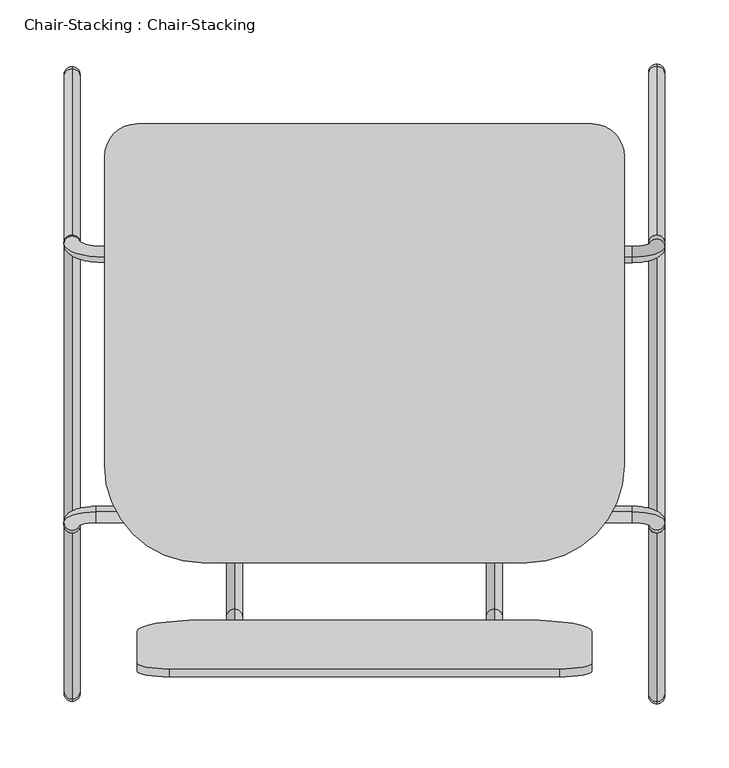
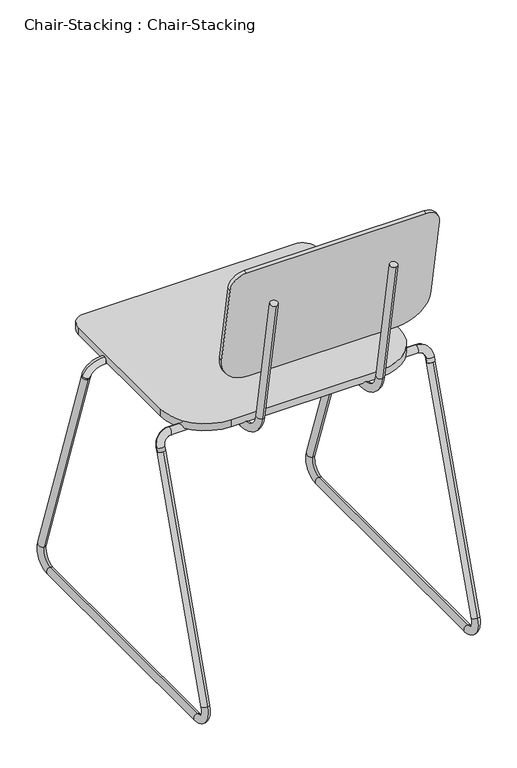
"""IFC4 building model written with IfcOpenShell, lengths in millimetres: furniture geometry, Chair-Stacking : Chair-Stacking."""

from ifc_helpers import new_model, si_unit, point, frame, frame_2d, origin, place, context, project, spatial, polyline, circle_curve, ellipse_curve, trimmed, segment, composite_curve, outline, extrude, source, transform, mapped, element, save
from ifc_brep_helpers import plane_surface, cylinder_surface, revolved_surface, advanced_brep


def chair_stacking_chair_stacking_76f41a28(model_context):
    return source(origin(), model_context, "Body", "SolidModel", [
        advanced_brep(
        [(-280.6491803, 213.2656675, 431.8), (-280.6491803, 213.2656675, 444.5), (-280.6491803, -23.0277124, 431.8), (-280.6491803, -23.0277124, 444.5), (-280.6491803, -66.802417, 481.2313385), (-280.6491803, -79.3094755, 479.0260066), (-280.6491803, -119.2282049, 705.4163709), (-280.6491803, -106.7211464, 707.6217027)],
        [
            (0, 1, circle_curve(frame((-280.6491803, 213.2656675, 438.15), z_axis=(0.0, 1.0, 0.0), x_axis=(0.0, 0.0, 1.0)), 6.35)),
            (1, 0, circle_curve(frame((-280.6491803, 213.2656675, 438.15), z_axis=(0.0, 1.0, 0.0), x_axis=(0.0, 0.0, 1.0)), 6.35)),
            (0, 2),
            (2, 3, circle_curve(frame((-280.6491803, -23.0277124, 438.15), z_axis=(0.0, 1.0, 0.0), x_axis=(0.0, 0.0, 1.0)), 6.35)),
            (3, 1),
            (3, 2, circle_curve(frame((-280.6491803, -23.0277124, 438.15), z_axis=(0.0, 1.0, 0.0), x_axis=(0.0, 0.0, 1.0)), 6.35)),
            (4, 3, circle_curve(frame((-280.6491803, -23.0277124, 488.95), z_axis=(1.0, 0.0, 0.0), x_axis=(0.0, 0.0, -1.0)), 44.45)),
            (2, 5, circle_curve(frame((-280.6491803, -23.0277124, 488.95), z_axis=(-1.0, 0.0, 0.0), x_axis=(0.0, 0.0, -1.0)), 57.15)),
            (5, 4, circle_curve(frame((-280.6491803, -73.0559463, 480.1286726), z_axis=(0.0, 0.17364817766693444, -0.9848077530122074), x_axis=(0.0, 0.9848077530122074, 0.17364817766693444)), 6.35)),
            (4, 5, circle_curve(frame((-280.6491803, -73.0559463, 480.1286726), z_axis=(0.0, 0.17364817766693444, -0.9848077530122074), x_axis=(0.0, 0.9848077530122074, 0.17364817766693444)), 6.35)),
            (6, 7, circle_curve(frame((-280.6491803, -112.9746757, 706.5190368), z_axis=(0.0, -0.1736481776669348, 0.9848077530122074), x_axis=(0.0, 0.9848077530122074, 0.1736481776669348)), 6.35)),
            (7, 6, circle_curve(frame((-280.6491803, -112.9746757, 706.5190368), z_axis=(0.0, -0.1736481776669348, 0.9848077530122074), x_axis=(0.0, 0.9848077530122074, 0.1736481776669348)), 6.35)),
            (5, 6),
            (7, 4),
        ],
        [
            plane_surface(frame((-286.9991803, 213.2656675, 438.15), z_axis=(0.0, 1.0, 0.0), x_axis=(0.0, 0.0, -1.0))),
            cylinder_surface(frame((-280.6491803, 213.2656675, 438.15), z_axis=(0.0, 1.0, 0.0), x_axis=(0.0, 0.0, 1.0)), 6.35),
            revolved_surface(trimmed(ellipse_curve(frame((-280.6491803, -23.0277124, 438.15), z_axis=(0.0, 1.0, 0.0), x_axis=(0.0, 0.0, 1.0)), 6.35, 6.35), [point((-280.6491803, -23.0277124, 431.8))], [point((-280.6491803, -23.0277124, 444.5))], True, "CARTESIAN"), (-280.6491803, -23.0277124, 488.95), (-1.0, 0.0, 0.0)),
            revolved_surface(trimmed(ellipse_curve(frame((-280.6491803, -23.0277124, 438.15), z_axis=(0.0, 1.0, 0.0), x_axis=(0.0, 0.0, 1.0)), 6.35, 6.35), [point((-280.6491803, -23.0277124, 444.5))], [point((-280.6491803, -23.0277124, 431.8))], True, "CARTESIAN"), (-280.6491803, -23.0277124, 488.95), (-1.0, 0.0, 0.0)),
            plane_surface(frame((-280.6491803, -119.2282049, 705.4163709), z_axis=(0.0, -0.17364817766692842, 0.9848077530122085), x_axis=(1.0, 0.0, 0.0))),
            cylinder_surface(frame((-280.6491803, -73.0559463, 480.1286726), z_axis=(0.0, 0.1736481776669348, -0.9848077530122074), x_axis=(0.0, 0.9848077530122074, 0.1736481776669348)), 6.35),
        ],
        [
            (0, [[1, 2]]),
            (1, [[-1, 3, 4, 5]]),
            (1, [[-2, -5, 6, -3]]),
            (2, [[7, -4, 8, 9]]),
            (3, [[-8, -6, -7, 10]]),
            (4, [[11, 12]]),
            (5, [[-9, 13, -12, 14]]),
            (5, [[-10, -14, -11, -13]]),
        ],
    ),
        advanced_brep(
        [(-77.4491803, 213.2656675, 431.8), (-77.4491803, 213.2656675, 444.5), (-77.4491803, -23.0277124, 431.8), (-77.4491803, -23.0277124, 444.5), (-77.4491803, -66.802417, 481.2313385), (-77.4491803, -79.3094755, 479.0260066), (-77.4491803, -118.9339087, 703.7473341), (-77.4491803, -106.4268502, 705.9526659)],
        [
            (0, 1, circle_curve(frame((-77.4491803, 213.2656675, 438.15), z_axis=(0.0, 1.0, 0.0), x_axis=(0.0, 0.0, 1.0)), 6.35)),
            (1, 0, circle_curve(frame((-77.4491803, 213.2656675, 438.15), z_axis=(0.0, 1.0, 0.0), x_axis=(0.0, 0.0, 1.0)), 6.35)),
            (0, 2),
            (2, 3, circle_curve(frame((-77.4491803, -23.0277124, 438.15), z_axis=(0.0, 1.0, 0.0), x_axis=(0.0, 0.0, 1.0)), 6.35)),
            (3, 1),
            (3, 2, circle_curve(frame((-77.4491803, -23.0277124, 438.15), z_axis=(0.0, 1.0, 0.0), x_axis=(0.0, 0.0, 1.0)), 6.35)),
            (4, 3, circle_curve(frame((-77.4491803, -23.0277124, 488.95), z_axis=(1.0, 0.0, 0.0), x_axis=(0.0, 0.0, -1.0)), 44.45)),
            (2, 5, circle_curve(frame((-77.4491803, -23.0277124, 488.95), z_axis=(-1.0, 0.0, 0.0), x_axis=(0.0, 0.0, -1.0)), 57.15)),
            (5, 4, circle_curve(frame((-77.4491803, -73.0559463, 480.1286726), z_axis=(0.0, 0.1736481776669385, -0.9848077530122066), x_axis=(0.0, 0.9848077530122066, 0.1736481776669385)), 6.35)),
            (4, 5, circle_curve(frame((-77.4491803, -73.0559463, 480.1286726), z_axis=(0.0, 0.1736481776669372, -0.9848077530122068), x_axis=(0.0, 0.9848077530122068, 0.1736481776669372)), 6.35)),
            (6, 7, circle_curve(frame((-77.4491803, -112.6803794, 704.85), z_axis=(0.0, -0.17364817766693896, 0.9848077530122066), x_axis=(0.0, 0.9848077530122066, 0.17364817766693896)), 6.35)),
            (7, 6, circle_curve(frame((-77.4491803, -112.6803794, 704.85), z_axis=(0.0, -0.17364817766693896, 0.9848077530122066), x_axis=(0.0, 0.9848077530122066, 0.17364817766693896)), 6.35)),
            (5, 6),
            (7, 4),
        ],
        [
            plane_surface(frame((-83.7991803, 213.2656675, 438.15), z_axis=(0.0, 1.0, 0.0), x_axis=(0.0, 0.0, -1.0))),
            cylinder_surface(frame((-77.4491803, 213.2656675, 438.15), z_axis=(0.0, 1.0, 0.0), x_axis=(0.0, 0.0, 1.0)), 6.35),
            revolved_surface(trimmed(ellipse_curve(frame((-77.4491803, -23.0277124, 438.15), z_axis=(0.0, 1.0, 0.0), x_axis=(0.0, 0.0, 1.0)), 6.35, 6.35), [point((-77.4491803, -23.0277124, 431.8))], [point((-77.4491803, -23.0277124, 444.5))], True, "CARTESIAN"), (-77.4491803, -23.0277124, 488.95), (-1.0, 0.0, 0.0)),
            revolved_surface(trimmed(ellipse_curve(frame((-77.4491803, -23.0277124, 438.15), z_axis=(0.0, 1.0, 0.0), x_axis=(0.0, 0.0, 1.0)), 6.35, 6.35), [point((-77.4491803, -23.0277124, 444.5))], [point((-77.4491803, -23.0277124, 431.8))], True, "CARTESIAN"), (-77.4491803, -23.0277124, 488.95), (-1.0, 0.0, 0.0)),
            plane_surface(frame((-77.4491803, -118.9339087, 703.7473341), z_axis=(0.0, -0.17364817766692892, 0.9848077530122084), x_axis=(1.0, 0.0, 0.0))),
            cylinder_surface(frame((-77.4491803, -73.0559463, 480.1286726), z_axis=(0.0, 0.17364817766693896, -0.9848077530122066), x_axis=(0.0, 0.9848077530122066, 0.17364817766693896)), 6.35),
        ],
        [
            (0, [[1, 2]]),
            (1, [[-1, 3, 4, 5]]),
            (1, [[-2, -5, 6, -3]]),
            (2, [[7, -4, 8, 9]]),
            (3, [[-8, -6, -7, 10]]),
            (4, [[11, 12]]),
            (5, [[-9, 13, -12, 14]]),
            (5, [[-10, -14, -11, -13]]),
        ],
    ),
        extrude(outline(composite_curve([segment(trimmed(circle_curve(frame_2d((-1.2491803, 286.7314636)), 25.4), [point((-1.2491803, 312.1314636))], [point((24.1508197, 286.7314636))], False, "CARTESIAN"), True, "CONTINUOUS"), segment(polyline([(24.1508197, 286.7314636), (24.1508197, 45.4314636)]), True, "CONTINUOUS"), segment(trimmed(circle_curve(frame_2d((-52.0491803, 45.4314636)), 76.2), [point((24.1508197, 45.4314636))], [point((-52.0491803, -30.7685364))], False, "CARTESIAN"), True, "CONTINUOUS"), segment(polyline([(-52.0491803, -30.7685364), (-306.0491803, -30.7685364)]), True, "CONTINUOUS"), segment(trimmed(circle_curve(frame_2d((-306.0491803, 45.4314636)), 76.2), [point((-306.0491803, -30.7685364))], [point((-382.2491803, 45.4314636))], False, "CARTESIAN"), True, "CONTINUOUS"), segment(polyline([(-382.2491803, 45.4314636), (-382.2491803, 286.7314636)]), True, "CONTINUOUS"), segment(trimmed(circle_curve(frame_2d((-356.8491803, 286.7314636)), 25.4), [point((-382.2491803, 286.7314636))], [point((-356.8491803, 312.1314636))], False, "CARTESIAN"), True, "CONTINUOUS"), segment(polyline([(-356.8491803, 312.1314636), (-1.2491803, 312.1314636)]), True, "CONTINUOUS")], self_intersect=False)), frame((0.0, 0.0, 444.5), z_axis=(0.0, 0.0, 1.0), x_axis=(1.0, 0.0, 0.0)), (0.0, 0.0, 1.0), 12.7),
        extrude(outline(composite_curve([segment(polyline([(-304.8, 0.0), (0.0, 0.0)]), True, "CONTINUOUS"), segment(trimmed(circle_curve(frame_2d((0.0, -25.4)), 25.4), [point((0.0, 0.0))], [point((25.4, -25.4))], False, "CARTESIAN"), True, "CONTINUOUS"), segment(polyline([(25.4, -25.4), (25.4, -168.3013626)]), True, "CONTINUOUS"), segment(trimmed(circle_curve(frame_2d((-25.4, -168.3013626)), 50.8), [point((25.4, -168.3013626))], [point((-25.4, -219.1013626))], False, "CARTESIAN"), True, "CONTINUOUS"), segment(polyline([(-25.4, -219.1013626), (-279.4, -219.1013626)]), True, "CONTINUOUS"), segment(trimmed(circle_curve(frame_2d((-279.4, -168.3013626)), 50.8), [point((-279.4, -219.1013626))], [point((-330.2, -168.3013626))], False, "CARTESIAN"), True, "CONTINUOUS"), segment(polyline([(-330.2, -168.3013626), (-330.2, -25.4)]), True, "CONTINUOUS"), segment(trimmed(circle_curve(frame_2d((-304.8, -25.4)), 25.4), [point((-330.2, -25.4))], [point((-304.8, 0.0))], False, "CARTESIAN"), True, "CONTINUOUS")], self_intersect=False)), frame((-331.4491803, -119.9531376, 782.6640535), z_axis=(0.0, 0.9848077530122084, 0.17364817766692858), x_axis=(-1.0, 0.0, 0.0)), (0.0, 0.0, 1.0), 6.35),
        advanced_brep(
        [(55.9008197, 219.2327758, 419.1211728), (43.2008197, 219.2327758, 419.1211728), (55.9008197, 216.3017292, 427.6700586), (43.2008197, 216.3017292, 427.6700586), (30.5008197, 212.1828103, 439.6835721), (30.5008197, 208.0638914, 451.6970857), (-382.2491803, 208.0638914, 451.6970857), (-382.2491803, 212.1828103, 439.6835721), (-401.2991803, 218.3611887, 421.6633019), (-413.9991803, 218.3611887, 421.6633019), (-413.9991803, 219.2424531, 419.0929473), (-401.2991803, 219.2424531, 419.0929473)],
        [
            (0, 1, circle_curve(frame((49.5508197, 219.2327758, 419.1211728), z_axis=(0.0, 0.32432432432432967, -0.9459459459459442), x_axis=(-1.0, 0.0, 0.0)), 6.35)),
            (1, 0, circle_curve(frame((49.5508197, 219.2327758, 419.1211728), z_axis=(0.0, 0.32432432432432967, -0.9459459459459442), x_axis=(-1.0, 0.0, 0.0)), 6.35)),
            (0, 2),
            (2, 3, circle_curve(frame((49.5508197, 216.3017292, 427.6700586), z_axis=(0.0, 0.32432432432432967, -0.9459459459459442), x_axis=(-1.0, 0.0, 0.0)), 6.35)),
            (3, 1),
            (3, 2, circle_curve(frame((49.5508197, 216.3017292, 427.6700586), z_axis=(0.0, 0.32432432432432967, -0.9459459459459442), x_axis=(-1.0, 0.0, 0.0)), 6.35)),
            (4, 3, circle_curve(frame((30.5008197, 216.3017292, 427.6700586), z_axis=(0.0, 0.9459459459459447, 0.3243243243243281), x_axis=(1.0, 0.0, 0.0)), 12.7)),
            (2, 5, circle_curve(frame((30.5008197, 216.3017292, 427.6700586), z_axis=(0.0, -0.9459459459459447, -0.3243243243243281), x_axis=(1.0, 0.0, 0.0)), 25.4)),
            (5, 4, circle_curve(frame((30.5008197, 210.1233509, 445.6903289), z_axis=(1.0, 0.0, 0.0), x_axis=(0.0, 0.32432432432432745, -0.9459459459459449)), 6.35)),
            (4, 5, circle_curve(frame((30.5008197, 210.1233509, 445.6903289), z_axis=(1.0, 0.0, 0.0), x_axis=(0.0, 0.32432432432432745, -0.9459459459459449)), 6.35)),
            (5, 6),
            (6, 7, circle_curve(frame((-382.2491803, 210.1233509, 445.6903289), z_axis=(1.0, 0.0, 0.0), x_axis=(0.0, 0.32432432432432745, -0.9459459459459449)), 6.35)),
            (7, 4),
            (7, 6, circle_curve(frame((-382.2491803, 210.1233509, 445.6903289), z_axis=(1.0, 0.0, 0.0), x_axis=(0.0, 0.32432432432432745, -0.9459459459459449)), 6.35)),
            (8, 7, circle_curve(frame((-382.2491803, 218.3611887, 421.6633019), z_axis=(0.0, 0.9459459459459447, 0.3243243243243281), x_axis=(0.0, -0.3243243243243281, 0.9459459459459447)), 19.05)),
            (6, 9, circle_curve(frame((-382.2491803, 218.3611887, 421.6633019), z_axis=(0.0, -0.9459459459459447, -0.3243243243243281), x_axis=(0.0, -0.3243243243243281, 0.9459459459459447)), 31.75)),
            (9, 8, circle_curve(frame((-407.6491803, 218.3611887, 421.6633019), z_axis=(0.0, -0.324324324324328, 0.9459459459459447), x_axis=(1.0000000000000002, 0.0, 0.0)), 6.35)),
            (8, 9, circle_curve(frame((-407.6491803, 218.3611887, 421.6633019), z_axis=(0.0, -0.324324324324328, 0.9459459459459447), x_axis=(1.0000000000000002, 0.0, 0.0)), 6.35)),
            (10, 11, circle_curve(frame((-407.6491803, 219.2424531, 419.0929473), z_axis=(0.0, 0.32432432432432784, -0.9459459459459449), x_axis=(1.0, 0.0, 0.0)), 6.35)),
            (11, 10, circle_curve(frame((-407.6491803, 219.2424531, 419.0929473), z_axis=(0.0, 0.32432432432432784, -0.9459459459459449), x_axis=(1.0, 0.0, 0.0)), 6.35)),
            (9, 10),
            (11, 8),
        ],
        [
            plane_surface(frame((49.5508197, 213.226019, 417.0617133), z_axis=(0.0, 0.32432432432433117, -0.9459459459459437), x_axis=(1.0, 0.0, 0.0))),
            cylinder_surface(frame((49.5508197, 219.2327758, 419.1211728), z_axis=(0.0, 0.32432432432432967, -0.9459459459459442), x_axis=(-1.0, 0.0, 0.0)), 6.35),
            revolved_surface(trimmed(ellipse_curve(frame((49.5508197, 216.3017292, 427.6700586), z_axis=(0.0, 0.32432432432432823, -0.9459459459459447), x_axis=(-1.0, 0.0, 0.0)), 6.35, 6.35), [point((55.9008197, 216.3017292, 427.6700586))], [point((43.2008197, 216.3017292, 427.6700586))], True, "CARTESIAN"), (30.5008197, 216.3017292, 427.6700586), (0.0, -0.9459459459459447, -0.3243243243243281)),
            revolved_surface(trimmed(ellipse_curve(frame((49.5508197, 216.3017292, 427.6700586), z_axis=(0.0, 0.32432432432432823, -0.9459459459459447), x_axis=(-1.0, 0.0, 0.0)), 6.35, 6.35), [point((43.2008197, 216.3017292, 427.6700586))], [point((55.9008197, 216.3017292, 427.6700586))], True, "CARTESIAN"), (30.5008197, 216.3017292, 427.6700586), (0.0, -0.9459459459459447, -0.3243243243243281)),
            cylinder_surface(frame((30.5008197, 210.1233509, 445.6903289), z_axis=(1.0, 0.0, 0.0), x_axis=(0.0, 0.32432432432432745, -0.9459459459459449)), 6.35),
            revolved_surface(trimmed(ellipse_curve(frame((-382.2491803, 210.1233509, 445.6903289), z_axis=(1.0000000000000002, 0.0, 0.0), x_axis=(0.0, 0.3243243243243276, -0.9459459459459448)), 6.35, 6.35), [point((-382.2491803, 208.0638914, 451.6970857))], [point((-382.2491803, 212.1828103, 439.6835721))], True, "CARTESIAN"), (-382.2491803, 218.3611887, 421.6633019), (0.0, -0.9459459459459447, -0.3243243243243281)),
            revolved_surface(trimmed(ellipse_curve(frame((-382.2491803, 210.1233509, 445.6903289), z_axis=(1.0000000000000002, 0.0, 0.0), x_axis=(0.0, 0.3243243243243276, -0.9459459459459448)), 6.35, 6.35), [point((-382.2491803, 212.1828103, 439.6835721))], [point((-382.2491803, 208.0638914, 451.6970857))], True, "CARTESIAN"), (-382.2491803, 218.3611887, 421.6633019), (0.0, -0.9459459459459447, -0.3243243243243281)),
            plane_surface(frame((-407.6491803, 225.2492099, 421.1524068), z_axis=(0.0, 0.3243243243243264, -0.9459459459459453), x_axis=(1.0, 0.0, 0.0))),
            cylinder_surface(frame((-407.6491803, 218.3611887, 421.6633019), z_axis=(0.0, -0.3243243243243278, 0.9459459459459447), x_axis=(1.0, 0.0, 0.0)), 6.35),
        ],
        [
            (0, [[1, 2]]),
            (1, [[-1, 3, 4, 5]]),
            (1, [[-2, -5, 6, -3]]),
            (2, [[7, -4, 8, 9]]),
            (3, [[-8, -6, -7, 10]]),
            (4, [[-9, 11, 12, 13]]),
            (4, [[-10, -13, 14, -11]]),
            (5, [[15, -12, 16, 17]]),
            (6, [[-16, -14, -15, 18]]),
            (7, [[19, 20]]),
            (8, [[-17, 21, -20, 22]]),
            (8, [[-18, -22, -19, -21]]),
        ],
    ),
        advanced_brep(
        [(55.9008197, -1.3812406, 419.0879461), (43.2008197, -1.3812406, 419.0879461), (55.9008197, 0.7944914, 425.4338312), (43.2008197, 0.7944914, 425.4338312), (30.5008197, 4.9134104, 437.4473447), (30.5008197, 9.0323293, 449.4608582), (-388.5991803, 9.0323293, 449.4608582), (-388.5991803, 4.9134104, 437.4473447), (-401.2991803, 0.7944914, 425.4338312), (-413.9991803, 0.7944914, 425.4338312), (-413.9991803, -1.3997864, 419.0338542), (-401.2991803, -1.3997864, 419.0338542)],
        [
            (0, 1, circle_curve(frame((49.5508197, -1.3812406, 419.0879461), z_axis=(0.0, -0.32432432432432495, -0.9459459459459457), x_axis=(-1.0, 0.0, 0.0)), 6.35)),
            (1, 0, circle_curve(frame((49.5508197, -1.3812406, 419.0879461), z_axis=(0.0, -0.32432432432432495, -0.9459459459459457), x_axis=(-1.0, 0.0, 0.0)), 6.35)),
            (0, 2),
            (2, 3, circle_curve(frame((49.5508197, 0.7944914, 425.4338312), z_axis=(0.0, -0.32432432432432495, -0.9459459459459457), x_axis=(-1.0, 0.0, 0.0)), 6.35)),
            (3, 1),
            (3, 2, circle_curve(frame((49.5508197, 0.7944914, 425.4338312), z_axis=(0.0, -0.32432432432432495, -0.9459459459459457), x_axis=(-1.0, 0.0, 0.0)), 6.35)),
            (4, 3, circle_curve(frame((30.5008197, 0.7944914, 425.4338312), z_axis=(0.0, 0.9459459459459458, -0.3243243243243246), x_axis=(1.0, 0.0, 0.0)), 12.7)),
            (2, 5, circle_curve(frame((30.5008197, 0.7944914, 425.4338312), z_axis=(0.0, -0.9459459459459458, 0.3243243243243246), x_axis=(1.0, 0.0, 0.0)), 25.4)),
            (5, 4, circle_curve(frame((30.5008197, 6.9728698, 443.4541014), z_axis=(1.0, 0.0, 0.0), x_axis=(0.0, -0.3243243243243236, -0.9459459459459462)), 6.35)),
            (4, 5, circle_curve(frame((30.5008197, 6.9728698, 443.4541014), z_axis=(1.0, 0.0, 0.0), x_axis=(0.0, -0.3243243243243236, -0.9459459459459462)), 6.35)),
            (5, 6),
            (6, 7, circle_curve(frame((-388.5991803, 6.9728698, 443.4541014), z_axis=(1.0, 0.0, 0.0), x_axis=(0.0, -0.3243243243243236, -0.9459459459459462)), 6.35)),
            (7, 4),
            (7, 6, circle_curve(frame((-388.5991803, 6.9728698, 443.4541014), z_axis=(1.0, 0.0, 0.0), x_axis=(0.0, -0.3243243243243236, -0.9459459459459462)), 6.35)),
            (8, 7, circle_curve(frame((-388.5991803, 0.7944914, 425.4338312), z_axis=(0.0, 0.9459459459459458, -0.3243243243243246), x_axis=(0.0, 0.3243243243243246, 0.9459459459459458)), 12.7)),
            (6, 9, circle_curve(frame((-388.5991803, 0.7944914, 425.4338312), z_axis=(0.0, -0.9459459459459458, 0.3243243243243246), x_axis=(0.0, 0.3243243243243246, 0.9459459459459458)), 25.4)),
            (9, 8, circle_curve(frame((-407.6491803, 0.7944914, 425.4338312), z_axis=(0.0, 0.3243243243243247, 0.9459459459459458), x_axis=(1.0, 0.0, 0.0)), 6.35)),
            (8, 9, circle_curve(frame((-407.6491803, 0.7944914, 425.4338312), z_axis=(0.0, 0.3243243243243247, 0.9459459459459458), x_axis=(1.0, 0.0, 0.0)), 6.35)),
            (10, 11, circle_curve(frame((-407.6491803, -1.3997864, 419.0338542), z_axis=(0.0, -0.3243243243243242, -0.945945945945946), x_axis=(1.0, 0.0, 0.0)), 6.35)),
            (11, 10, circle_curve(frame((-407.6491803, -1.3997864, 419.0338542), z_axis=(0.0, -0.3243243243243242, -0.945945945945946), x_axis=(1.0, 0.0, 0.0)), 6.35)),
            (9, 10),
            (11, 8),
        ],
        [
            plane_surface(frame((49.5508197, -7.3879973, 421.1474055), z_axis=(0.0, -0.32432432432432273, -0.9459459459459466), x_axis=(1.0, 0.0, 0.0))),
            cylinder_surface(frame((49.5508197, -1.3812406, 419.0879461), z_axis=(0.0, -0.32432432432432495, -0.9459459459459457), x_axis=(-1.0, 0.0, 0.0)), 6.35),
            revolved_surface(trimmed(ellipse_curve(frame((49.5508197, 0.7944914, 425.4338312), z_axis=(0.0, -0.32432432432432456, -0.9459459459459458), x_axis=(-1.0, 0.0, 0.0)), 6.35, 6.35), [point((55.9008197, 0.7944914, 425.4338312))], [point((43.2008197, 0.7944914, 425.4338312))], True, "CARTESIAN"), (30.5008197, 0.7944914, 425.4338312), (0.0, -0.9459459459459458, 0.3243243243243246)),
            revolved_surface(trimmed(ellipse_curve(frame((49.5508197, 0.7944914, 425.4338312), z_axis=(0.0, -0.32432432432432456, -0.9459459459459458), x_axis=(-1.0, 0.0, 0.0)), 6.35, 6.35), [point((43.2008197, 0.7944914, 425.4338312))], [point((55.9008197, 0.7944914, 425.4338312))], True, "CARTESIAN"), (30.5008197, 0.7944914, 425.4338312), (0.0, -0.9459459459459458, 0.3243243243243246)),
            cylinder_surface(frame((30.5008197, 6.9728698, 443.4541014), z_axis=(1.0, 0.0, 0.0), x_axis=(0.0, -0.3243243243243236, -0.9459459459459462)), 6.35),
            revolved_surface(trimmed(ellipse_curve(frame((-388.5991803, 6.9728698, 443.4541014), z_axis=(1.0, 0.0, 0.0), x_axis=(0.0, -0.3243243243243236, -0.9459459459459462)), 6.35, 6.35), [point((-388.5991803, 9.0323293, 449.4608582))], [point((-388.5991803, 4.9134104, 437.4473447))], True, "CARTESIAN"), (-388.5991803, 0.7944914, 425.4338312), (0.0, -0.9459459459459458, 0.3243243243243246)),
            revolved_surface(trimmed(ellipse_curve(frame((-388.5991803, 6.9728698, 443.4541014), z_axis=(1.0, 0.0, 0.0), x_axis=(0.0, -0.3243243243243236, -0.9459459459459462)), 6.35, 6.35), [point((-388.5991803, 4.9134104, 437.4473447))], [point((-388.5991803, 9.0323293, 449.4608582))], True, "CARTESIAN"), (-388.5991803, 0.7944914, 425.4338312), (0.0, -0.9459459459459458, 0.3243243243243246)),
            plane_surface(frame((-407.6491803, 4.6069704, 416.9743947), z_axis=(0.0, -0.3243243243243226, -0.9459459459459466), x_axis=(1.0, 0.0, 0.0))),
            cylinder_surface(frame((-407.6491803, 0.7944914, 425.4338312), z_axis=(0.0, 0.3243243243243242, 0.945945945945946), x_axis=(1.0, 0.0, 0.0)), 6.35),
        ],
        [
            (0, [[1, 2]]),
            (1, [[-1, 3, 4, 5]]),
            (1, [[-2, -5, 6, -3]]),
            (2, [[7, -4, 8, 9]]),
            (3, [[-8, -6, -7, 10]]),
            (4, [[-9, 11, 12, 13]]),
            (4, [[-10, -13, 14, -11]]),
            (5, [[15, -12, 16, 17]]),
            (6, [[-16, -14, -15, 18]]),
            (7, [[19, 20]]),
            (8, [[-17, 21, -20, 22]]),
            (8, [[-18, -22, -19, -21]]),
        ],
    ),
        advanced_brep(
        [(-407.6491803, 225.2492099, 421.1524068), (-407.6491803, 213.2356963, 417.0334879), (-407.6491803, 355.2281045, 42.0472973), (-407.6491803, 343.214591, 37.9283784), (-407.6491803, 325.1943208, 12.7), (-407.6491803, 325.1943208, 0.0), (-407.6491803, -107.3313935, 0.0), (-407.6491803, -107.3313935, 12.7), (-407.6491803, -125.3516638, 37.9283784), (-407.6491803, -137.3651773, 42.0472973), (-407.6491803, -7.4065431, 421.0933136), (-407.6491803, 4.6069704, 416.9743947)],
        [
            (0, 1, circle_curve(frame((-407.6491803, 219.2424531, 419.0929473), z_axis=(0.0, -0.3243243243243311, 0.9459459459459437), x_axis=(0.0, -0.9459459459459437, -0.3243243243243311)), 6.35)),
            (1, 0, circle_curve(frame((-407.6491803, 219.2424531, 419.0929473), z_axis=(0.0, -0.3243243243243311, 0.9459459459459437), x_axis=(0.0, -0.9459459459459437, -0.3243243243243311)), 6.35)),
            (0, 2),
            (2, 3, circle_curve(frame((-407.6491803, 349.2213478, 39.9878378), z_axis=(0.0, -0.3243243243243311, 0.9459459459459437), x_axis=(0.0, -0.9459459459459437, -0.3243243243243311)), 6.35)),
            (3, 1),
            (3, 2, circle_curve(frame((-407.6491803, 349.2213478, 39.9878378), z_axis=(0.0, -0.3243243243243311, 0.9459459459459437), x_axis=(0.0, -0.9459459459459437, -0.3243243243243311)), 6.35)),
            (4, 3, circle_curve(frame((-407.6491803, 325.1943208, 31.75), z_axis=(1.0, 0.0, 0.0), x_axis=(0.0, 0.9459459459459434, 0.3243243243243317)), 19.05)),
            (2, 5, circle_curve(frame((-407.6491803, 325.1943208, 31.75), z_axis=(-1.0, 0.0, 0.0), x_axis=(0.0, 0.9459459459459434, 0.3243243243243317)), 31.75)),
            (5, 4, circle_curve(frame((-407.6491803, 325.1943208, 6.35), z_axis=(0.0, 1.0, 0.0), x_axis=(0.0, 0.0, 1.0)), 6.35)),
            (4, 5, circle_curve(frame((-407.6491803, 325.1943208, 6.35), z_axis=(0.0, 0.9999999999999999, 0.0), x_axis=(0.0, 0.0, 0.9999999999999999)), 6.35)),
            (5, 6),
            (6, 7, circle_curve(frame((-407.6491803, -107.3313935, 6.35), z_axis=(0.0, 1.0, 0.0), x_axis=(0.0, 0.0, 1.0)), 6.35)),
            (7, 4),
            (7, 6, circle_curve(frame((-407.6491803, -107.3313935, 6.35), z_axis=(0.0, 1.0, 0.0), x_axis=(0.0, 0.0, 1.0)), 6.35)),
            (8, 7, circle_curve(frame((-407.6491803, -107.3313935, 31.75), z_axis=(1.0, 0.0, 0.0), x_axis=(0.0, 0.0, -1.0)), 19.05)),
            (6, 9, circle_curve(frame((-407.6491803, -107.3313935, 31.75), z_axis=(-1.0, 0.0, 0.0), x_axis=(0.0, 0.0, -1.0)), 31.75)),
            (9, 8, circle_curve(frame((-407.6491803, -131.3584206, 39.9878378), z_axis=(0.0, -0.3243243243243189, -0.9459459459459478), x_axis=(0.0, 0.9459459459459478, -0.3243243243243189)), 6.35)),
            (8, 9, circle_curve(frame((-407.6491803, -131.3584206, 39.9878378), z_axis=(0.0, -0.3243243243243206, -0.9459459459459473), x_axis=(0.0, 0.9459459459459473, -0.3243243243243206)), 6.35)),
            (10, 11, circle_curve(frame((-407.6491803, -1.3997864, 419.0338542), z_axis=(0.0, 0.3243243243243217, 0.9459459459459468), x_axis=(0.0, 0.9459459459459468, -0.3243243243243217)), 6.35)),
            (11, 10, circle_curve(frame((-407.6491803, -1.3997864, 419.0338542), z_axis=(0.0, 0.3243243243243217, 0.9459459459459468), x_axis=(0.0, 0.9459459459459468, -0.3243243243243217)), 6.35)),
            (9, 10),
            (11, 8),
        ],
        [
            plane_surface(frame((-407.6491803, 225.2492099, 421.1524068), z_axis=(0.0, -0.32432432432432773, 0.9459459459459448), x_axis=(1.0, 0.0, 0.0))),
            cylinder_surface(frame((-407.6491803, 219.2424531, 419.0929473), z_axis=(0.0, -0.3243243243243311, 0.9459459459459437), x_axis=(0.0, -0.9459459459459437, -0.3243243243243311)), 6.35),
            revolved_surface(trimmed(ellipse_curve(frame((-407.6491803, 349.2213478, 39.9878378), z_axis=(0.0, -0.3243243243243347, 0.9459459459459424), x_axis=(0.0, -0.9459459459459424, -0.3243243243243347)), 6.35, 6.35), [point((-407.6491803, 355.2281045, 42.0472973))], [point((-407.6491803, 343.214591, 37.9283784))], True, "CARTESIAN"), (-407.6491803, 325.1943208, 31.75), (-1.0, 0.0, 0.0)),
            revolved_surface(trimmed(ellipse_curve(frame((-407.6491803, 349.2213478, 39.9878378), z_axis=(0.0, -0.3243243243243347, 0.9459459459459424), x_axis=(0.0, -0.9459459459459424, -0.3243243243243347)), 6.35, 6.35), [point((-407.6491803, 343.214591, 37.9283784))], [point((-407.6491803, 355.2281045, 42.0472973))], True, "CARTESIAN"), (-407.6491803, 325.1943208, 31.75), (-1.0, 0.0, 0.0)),
            cylinder_surface(frame((-407.6491803, 325.1943208, 6.35), z_axis=(0.0, 1.0, 0.0), x_axis=(0.0, 0.0, 1.0)), 6.35),
            revolved_surface(trimmed(ellipse_curve(frame((-407.6491803, -107.3313935, 6.35), z_axis=(0.0, 1.0, 0.0), x_axis=(0.0, 0.0, 1.0)), 6.35, 6.35), [point((-407.6491803, -107.3313935, 0.0))], [point((-407.6491803, -107.3313935, 12.7))], True, "CARTESIAN"), (-407.6491803, -107.3313935, 31.75), (-1.0, 0.0, 0.0)),
            revolved_surface(trimmed(ellipse_curve(frame((-407.6491803, -107.3313935, 6.35), z_axis=(0.0, 1.0, 0.0), x_axis=(0.0, 0.0, 1.0)), 6.35, 6.35), [point((-407.6491803, -107.3313935, 12.7))], [point((-407.6491803, -107.3313935, 0.0))], True, "CARTESIAN"), (-407.6491803, -107.3313935, 31.75), (-1.0, 0.0, 0.0)),
            plane_surface(frame((-407.6491803, -7.4065431, 421.0933136), z_axis=(0.0, 0.324324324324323, 0.9459459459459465), x_axis=(1.0, 0.0, 0.0))),
            cylinder_surface(frame((-407.6491803, -131.3584206, 39.9878378), z_axis=(0.0, -0.3243243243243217, -0.9459459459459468), x_axis=(0.0, 0.9459459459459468, -0.3243243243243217)), 6.35),
        ],
        [
            (0, [[1, 2]]),
            (1, [[-1, 3, 4, 5]]),
            (1, [[-2, -5, 6, -3]]),
            (2, [[7, -4, 8, 9]]),
            (3, [[-8, -6, -7, 10]]),
            (4, [[-9, 11, 12, 13]]),
            (4, [[-10, -13, 14, -11]]),
            (5, [[15, -12, 16, 17]]),
            (6, [[-16, -14, -15, 18]]),
            (7, [[19, 20]]),
            (8, [[-17, 21, -20, 22]]),
            (8, [[-18, -22, -19, -21]]),
        ],
    ),
        advanced_brep(
        [(49.5508197, 225.2597598, 421.1875673), (49.5508197, 213.2656675, 417.0124327), (49.5508197, 357.1892841, 42.1878365), (49.5508197, 345.1951918, 38.0127019), (49.5508197, 327.2040533, 12.7), (49.5508197, 327.2040533, 0.0), (49.5508197, -109.3411268, 0.0), (49.5508197, -109.3411268, 12.7), (49.5508197, -127.3337908, 38.0083179), (49.5508197, -139.3289001, 42.1805298), (49.5508197, -7.5008737, 421.186106), (49.5508197, 4.4942357, 417.013894)],
        [
            (0, 1, circle_curve(frame((49.5508197, 219.2627136, 419.1), z_axis=(0.0, -0.3287507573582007, 0.9444167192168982), x_axis=(0.0, -0.9444167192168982, -0.3287507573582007)), 6.35)),
            (1, 0, circle_curve(frame((49.5508197, 219.2627136, 419.1), z_axis=(0.0, -0.3287507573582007, 0.9444167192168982), x_axis=(0.0, -0.9444167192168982, -0.3287507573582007)), 6.35)),
            (0, 2),
            (2, 3, circle_curve(frame((49.5508197, 351.1922379, 40.1002692), z_axis=(0.0, -0.3287507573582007, 0.9444167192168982), x_axis=(0.0, -0.9444167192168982, -0.3287507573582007)), 6.35)),
            (3, 1),
            (3, 2, circle_curve(frame((49.5508197, 351.1922379, 40.1002692), z_axis=(0.0, -0.3287507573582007, 0.9444167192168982), x_axis=(0.0, -0.9444167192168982, -0.3287507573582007)), 6.35)),
            (4, 3, circle_curve(frame((49.5508197, 327.2040533, 31.75), z_axis=(1.0, 0.0, 0.0), x_axis=(0.0, 0.944416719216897, 0.3287507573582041)), 19.05)),
            (2, 5, circle_curve(frame((49.5508197, 327.2040533, 31.75), z_axis=(-1.0, 0.0, 0.0), x_axis=(0.0, 0.944416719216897, 0.3287507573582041)), 31.75)),
            (5, 4, circle_curve(frame((49.5508197, 327.2040533, 6.35), z_axis=(0.0, 1.0, 0.0), x_axis=(0.0, 0.0, 1.0)), 6.35)),
            (4, 5, circle_curve(frame((49.5508197, 327.2040533, 6.35), z_axis=(0.0, 0.9999999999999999, 0.0), x_axis=(0.0, 0.0, 0.9999999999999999)), 6.35)),
            (5, 6),
            (6, 7, circle_curve(frame((49.5508197, -109.3411268, 6.35), z_axis=(0.0, 1.0, 0.0), x_axis=(0.0, 0.0, 1.0)), 6.35)),
            (7, 4),
            (7, 6, circle_curve(frame((49.5508197, -109.3411268, 6.35), z_axis=(0.0, 1.0, 0.0), x_axis=(0.0, 0.0, 1.0)), 6.35)),
            (8, 7, circle_curve(frame((49.5508197, -109.3411268, 31.75), z_axis=(1.0, 0.0, 0.0), x_axis=(0.0, 0.0, -1.0)), 19.05)),
            (6, 9, circle_curve(frame((49.5508197, -109.3411268, 31.75), z_axis=(-1.0, 0.0, 0.0), x_axis=(0.0, 0.0, -1.0)), 31.75)),
            (9, 8, circle_curve(frame((49.5508197, -133.3313455, 40.0944239), z_axis=(0.0, -0.3285206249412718, -0.9444967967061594), x_axis=(0.0, 0.9444967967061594, -0.3285206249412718)), 6.35)),
            (8, 9, circle_curve(frame((49.5508197, -133.3313455, 40.0944239), z_axis=(0.0, -0.3285206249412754, -0.9444967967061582), x_axis=(0.0, 0.9444967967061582, -0.3285206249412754)), 6.35)),
            (10, 11, circle_curve(frame((49.5508197, -1.503319, 419.1), z_axis=(0.0, 0.3285206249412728, 0.9444967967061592), x_axis=(0.0, 0.9444967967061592, -0.3285206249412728)), 6.35)),
            (11, 10, circle_curve(frame((49.5508197, -1.503319, 419.1), z_axis=(0.0, 0.3285206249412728, 0.9444967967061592), x_axis=(0.0, 0.9444967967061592, -0.3285206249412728)), 6.35)),
            (9, 10),
            (11, 8),
        ],
        [
            plane_surface(frame((49.5508197, 225.2597598, 421.1875673), z_axis=(0.0, -0.3287507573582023, 0.9444167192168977), x_axis=(1.0, 0.0, 0.0))),
            cylinder_surface(frame((49.5508197, 219.2627136, 419.1), z_axis=(0.0, -0.3287507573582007, 0.9444167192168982), x_axis=(0.0, -0.9444167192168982, -0.3287507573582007)), 6.35),
            revolved_surface(trimmed(ellipse_curve(frame((49.5508197, 351.1922379, 40.1002692), z_axis=(0.0, -0.32875075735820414, 0.944416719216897), x_axis=(0.0, -0.944416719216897, -0.32875075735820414)), 6.35, 6.35), [point((49.5508197, 357.1892841, 42.1878365))], [point((49.5508197, 345.1951918, 38.0127019))], True, "CARTESIAN"), (49.5508197, 327.2040533, 31.75), (-1.0, 0.0, 0.0)),
            revolved_surface(trimmed(ellipse_curve(frame((49.5508197, 351.1922379, 40.1002692), z_axis=(0.0, -0.32875075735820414, 0.944416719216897), x_axis=(0.0, -0.944416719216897, -0.32875075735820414)), 6.35, 6.35), [point((49.5508197, 345.1951918, 38.0127019))], [point((49.5508197, 357.1892841, 42.1878365))], True, "CARTESIAN"), (49.5508197, 327.2040533, 31.75), (-1.0, 0.0, 0.0)),
            cylinder_surface(frame((49.5508197, 327.2040533, 6.35), z_axis=(0.0, 1.0, 0.0), x_axis=(0.0, 0.0, 1.0)), 6.35),
            revolved_surface(trimmed(ellipse_curve(frame((49.5508197, -109.3411268, 6.35), z_axis=(0.0, 1.0, 0.0), x_axis=(0.0, 0.0, 1.0)), 6.35, 6.35), [point((49.5508197, -109.3411268, 0.0))], [point((49.5508197, -109.3411268, 12.7))], True, "CARTESIAN"), (49.5508197, -109.3411268, 31.75), (-1.0, 0.0, 0.0)),
            revolved_surface(trimmed(ellipse_curve(frame((49.5508197, -109.3411268, 6.35), z_axis=(0.0, 1.0, 0.0), x_axis=(0.0, 0.0, 1.0)), 6.35, 6.35), [point((49.5508197, -109.3411268, 12.7))], [point((49.5508197, -109.3411268, 0.0))], True, "CARTESIAN"), (49.5508197, -109.3411268, 31.75), (-1.0, 0.0, 0.0)),
            plane_surface(frame((49.5508197, -7.5008737, 421.186106), z_axis=(0.0, 0.3285206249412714, 0.9444967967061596), x_axis=(1.0, 0.0, 0.0))),
            cylinder_surface(frame((49.5508197, -133.3313455, 40.0944239), z_axis=(0.0, -0.3285206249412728, -0.9444967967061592), x_axis=(0.0, 0.9444967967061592, -0.3285206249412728)), 6.35),
        ],
        [
            (0, [[1, 2]]),
            (1, [[-1, 3, 4, 5]]),
            (1, [[-2, -5, 6, -3]]),
            (2, [[7, -4, 8, 9]]),
            (3, [[-8, -6, -7, 10]]),
            (4, [[-9, 11, 12, 13]]),
            (4, [[-10, -13, 14, -11]]),
            (5, [[15, -12, 16, 17]]),
            (6, [[-16, -14, -15, 18]]),
            (7, [[19, 20]]),
            (8, [[-17, 21, -20, 22]]),
            (8, [[-18, -22, -19, -21]]),
        ],
    ),
    ])


if __name__ == "__main__":
    model = new_model("IFC4")
    model_context = context("Model", 3, world=origin())
    ifc_project = project(units=[si_unit("LENGTHUNIT", "METRE", prefix="MILLI")], contexts=[model_context])
    site = spatial("IfcSite", under=ifc_project)
    building = spatial("IfcBuilding", under=site)
    placement = place(None, origin())
    chair_stacking_chair_stacking_shape = chair_stacking_chair_stacking_76f41a28(model_context)
    element("IfcFurniture", 1, ObjectType="Chair-Stacking : Chair-Stacking", at=placement, inside=building, context=model_context, shape_type="MappedRepresentation", body=[
        mapped(chair_stacking_chair_stacking_shape, transform((0.0, 0.0, 0.0), x_axis=(1.0, 0.0, 0.0), y_axis=(0.0, 1.0, 0.0), z_axis=(0.0, 0.0, 1.0))),
    ])
    save(model, "model.ifc")
